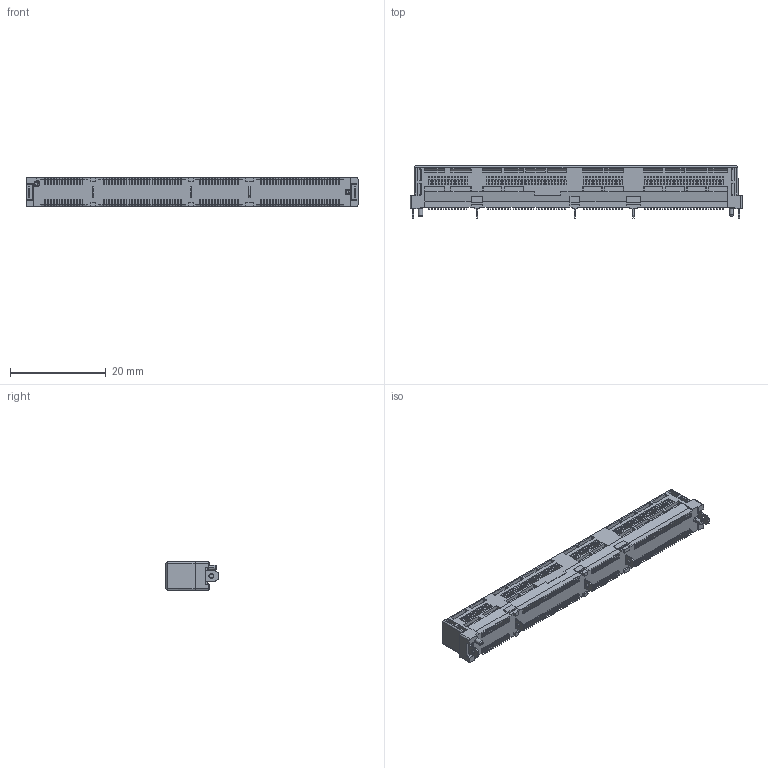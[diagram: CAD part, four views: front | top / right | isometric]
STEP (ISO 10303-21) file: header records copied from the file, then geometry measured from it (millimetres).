
FILE_DESCRIPTION((''),'2;1');
FILE_NAME('SSIO_GENZ_PGZBA6-5300-005-0H','2026-07-13T09:05:58',('39002408'),(''),'CREO PARAMETRIC BY PTC INC, 2019471','CREO PARAMETRIC BY PTC INC, 2019471','');
FILE_SCHEMA(('CONFIG_CONTROL_DESIGN'));
Products named in the file (1): SSIO_GENZ_PGZBA6-5300-005-0H
Bounding box: 69.31 x 10.92 x 6 mm (x, y, z)
Volume: 2490.6 mm3; surface area: 4874.8 mm2
Topology: 1 solids, 1 shells, 4942 faces, 13000 edges, 8246 vertices
Faces by surface type: plane 3601, cylinder 1134, sphere 192, bspline 8, cone 6, torus 1
Entity records: 149575 total; most frequent: CARTESIAN_POINT 26479, ORIENTED_EDGE 25620, DIRECTION 25330, EDGE_CURVE 12810, VECTOR 10042, LINE 10042, VERTEX_POINT 8246, AXIS2_PLACEMENT_3D 7644
